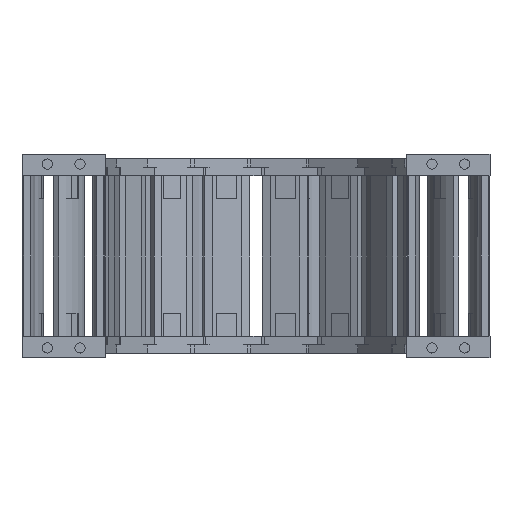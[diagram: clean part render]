
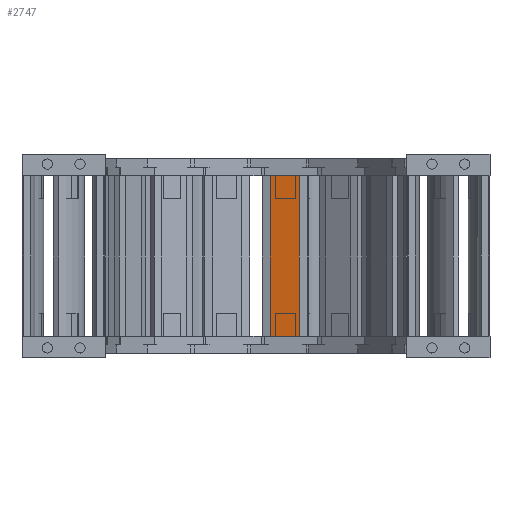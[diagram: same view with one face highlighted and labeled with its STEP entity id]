
A CAD part, left-side view. The second image highlights one B-rep face of the part: STEP entity #2747.
In plain terms, the highlighted planar face has unit normal (-0.981, 0.195, 0) as drawn and (0, -1, 0) by its records, which use the part's own axes.
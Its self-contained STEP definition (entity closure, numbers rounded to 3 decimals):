
#2634=DIRECTION('',(0.,0.,-1.));
#2635=VECTOR('',#2634,125.4);
#2636=CARTESIAN_POINT('',(-11.5,-61.,37.5));
#2637=LINE('',#2636,#2635);
#2651=DIRECTION('',(1.,0.,0.));
#2652=VECTOR('',#2651,23.);
#2653=CARTESIAN_POINT('',(-11.5,-61.,37.5));
#2654=LINE('',#2653,#2652);
#2684=DIRECTION('',(-1.,0.,0.));
#2685=VECTOR('',#2684,23.);
#2686=CARTESIAN_POINT('',(11.5,-61.,-87.9));
#2687=LINE('',#2686,#2685);
#2700=DIRECTION('',(0.,0.,-1.));
#2701=VECTOR('',#2700,125.4);
#2702=CARTESIAN_POINT('',(11.5,-61.,37.5));
#2703=LINE('',#2702,#2701);
#2714=CARTESIAN_POINT('',(11.5,-61.,-87.9));
#2715=VERTEX_POINT('',#2714);
#2716=CARTESIAN_POINT('',(-11.5,-61.,-87.9));
#2717=VERTEX_POINT('',#2716);
#2726=CARTESIAN_POINT('',(11.5,-61.,37.5));
#2727=VERTEX_POINT('',#2726);
#2730=CARTESIAN_POINT('',(-11.5,-61.,37.5));
#2731=VERTEX_POINT('',#2730);
#2732=CARTESIAN_POINT('',(15.5,-61.,-87.9));
#2733=DIRECTION('',(0.,1.,0.));
#2734=DIRECTION('',(-1.,0.,0.));
#2735=AXIS2_PLACEMENT_3D('',#2732,#2733,#2734);
#2736=PLANE('',#2735);
#2738=ORIENTED_EDGE('',*,*,#2737,.F.);
#2740=ORIENTED_EDGE('',*,*,#2739,.T.);
#2742=ORIENTED_EDGE('',*,*,#2741,.T.);
#2744=ORIENTED_EDGE('',*,*,#2743,.T.);
#2745=EDGE_LOOP('',(#2738,#2740,#2742,#2744));
#2746=FACE_OUTER_BOUND('',#2745,.F.);
#2747=ADVANCED_FACE('',(#2746),#2736,.F.);
#2737=EDGE_CURVE('',#2731,#2717,#2637,.T.);
#2739=EDGE_CURVE('',#2731,#2727,#2654,.T.);
#2741=EDGE_CURVE('',#2727,#2715,#2703,.T.);
#2743=EDGE_CURVE('',#2715,#2717,#2687,.T.);
